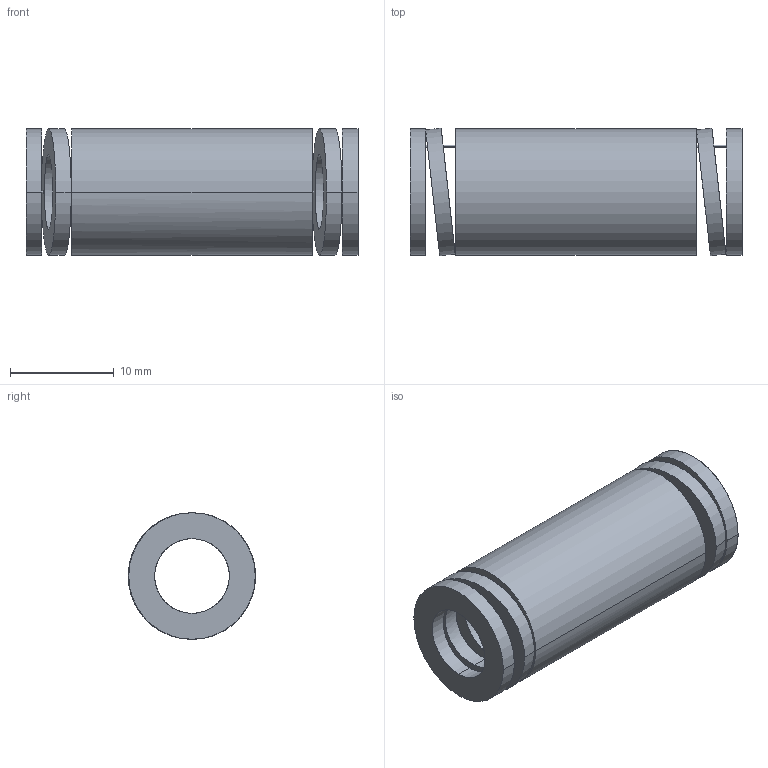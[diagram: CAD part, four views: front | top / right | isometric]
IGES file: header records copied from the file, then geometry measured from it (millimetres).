
Start section: START RECORD GO HERE.
Global section: file name: 392-B13-032.igs; native system: DASSAULT SYSTEMES CATIA V5 R20 - www.3ds.com; preprocessor: CATIA Version 5 Release 20 ; author: Utente; organization: NB04-ASUS; date: 20210812.145031; units: millimetre
Bounding box: 32 x 12.29 x 12.2 mm (x, y, z)
Surface area: 2542.4 mm2 (no closed solid volume)
Topology: 0 solids, 0 shells, 38 faces, 184 edges, 184 vertices
Faces by surface type: revolution 28, plane 10
